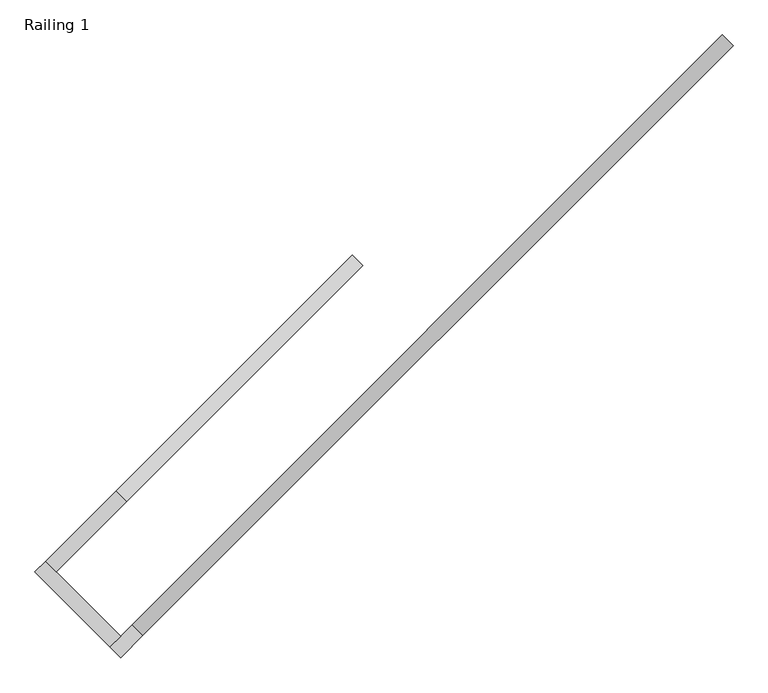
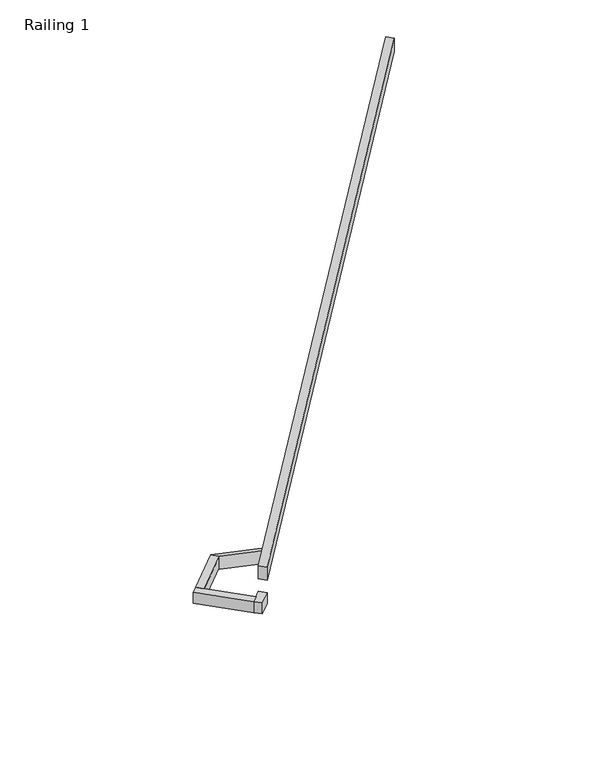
"""IFC4 building model written with IfcOpenShell, lengths in millimetres: railing geometry, Railing 1."""

from ifc_helpers import new_model, si_unit, frame, origin, place, context, project, spatial, polyline, outline, extrude, source, transform, mapped, element, save


def railing_1_545f83d4(model_context):
    return source(origin(), model_context, "Body", "SweptSolid", [
        extrude(outline(polyline([(-48.4909091, -76.2), (0.0, 0.0), (1324.7019288, 0.0), (1276.2110197, -76.2000001), (-48.4909091, -76.2)])), frame((-54978.0574371, 9802.7383702, 939.8), z_axis=(-0.7071067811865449, 0.7071067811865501, 0.0), x_axis=(-0.5965587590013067, -0.5965587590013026, 0.536875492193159)), (0.0, 0.0, 1.0), 50.8),
        extrude(outline(polyline([(-55804.2410002, 9048.396856), (-55768.3199758, 9012.4758315), (-56004.4295835, 8776.3662237), (-56040.350608, 8812.2872482), (-55804.2410002, 9048.396856)])), frame((0.0, 0.0, 1574.8), z_axis=(0.0, 0.0, 1.0), x_axis=(1.0, 0.0, 0.0)), (0.0, 0.0, 1.0), 76.2),
        extrude(outline(polyline([(-56076.2716325, 8776.3662237), (-56040.350608, 8812.2872482), (-55789.1934084, 8561.1300486), (-55825.1144329, 8525.2090241), (-56076.2716325, 8776.3662237)])), frame((0.0, 0.0, 1574.8), z_axis=(0.0, 0.0, 1.0), x_axis=(1.0, 0.0, 0.0)), (0.0, 0.0, 1.0), 76.2),
        extrude(outline(polyline([(-55789.1934084, 8489.2879996), (-55825.1144329, 8525.2090241), (-55750.6494353, 8599.6740217), (-55714.7284108, 8563.7529972), (-55789.1934084, 8489.2879996)])), frame((0.0, 0.0, 1574.8), z_axis=(0.0, 0.0, 1.0), x_axis=(1.0, 0.0, 0.0)), (0.0, 0.0, 1.0), 76.2),
        extrude(outline(polyline([(48.4909091, -76.2), (0.0, 0.0), (3311.7548219, 0.0), (3360.245731, -76.2), (48.4909091, -76.2)])), frame((-55714.7284108, 8563.7529972, 1738.4794139), z_axis=(-0.707106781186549, 0.707106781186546, 0.0), x_axis=(0.5965587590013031, 0.5965587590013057, 0.5368754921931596)), (0.0, 0.0, 1.0), 50.8),
    ])


if __name__ == "__main__":
    model = new_model("IFC4")
    model_context = context("Model", 3, world=origin())
    ifc_project = project(units=[si_unit("LENGTHUNIT", "METRE", prefix="MILLI")], contexts=[model_context])
    site = spatial("IfcSite", under=ifc_project)
    building = spatial("IfcBuilding", under=site)
    placement = place(None, origin())
    railing_1_shape = railing_1_545f83d4(model_context)
    element("IfcRailing", 1, ObjectType="Railing 1", at=placement, inside=building, context=model_context, shape_type="MappedRepresentation", body=[
        mapped(railing_1_shape, transform((0.0, 0.0, 0.0), x_axis=(1.0, 0.0, 0.0), y_axis=(0.0, 1.0, 0.0), z_axis=(0.0, 0.0, 1.0))),
    ])
    save(model, "model.ifc")
